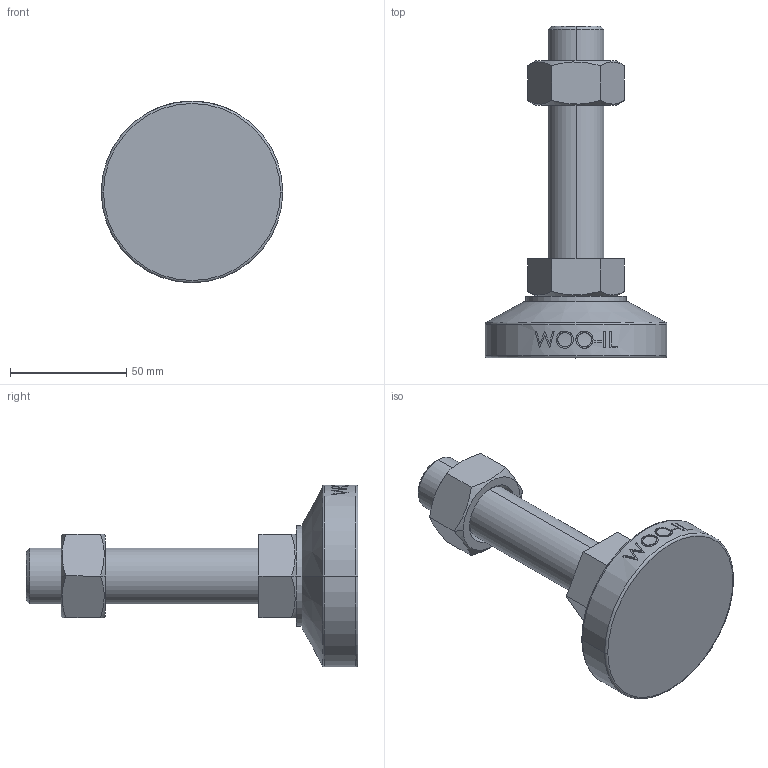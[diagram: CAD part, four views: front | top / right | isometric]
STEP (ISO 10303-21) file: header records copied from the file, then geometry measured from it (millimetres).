
FILE_DESCRIPTION (( 'STEP AP214' ), '1' );
FILE_NAME ('MFB78-M24-100.step', '2022-06-27T08:35:25', ( '' ), ( '' ), 'SwSTEP 2.0', 'SolidWorks 2019', '' );
FILE_SCHEMA (( 'AUTOMOTIVE_DESIGN' ));
Length unit declared in the file: millimetre
Products named in the file (1): MFB78-M24-100
Bounding box: 78 x 142.5 x 78 mm (x, y, z)
Volume: 177942.3 mm3; surface area: 30365 mm2
Topology: 3 solids, 3 shells, 97 faces, 225 edges, 144 vertices
Faces by surface type: plane 47, cylinder 16, bspline 16, cone 14, torus 4
Entity records: 4305 total; most frequent: CARTESIAN_POINT 2175, ORIENTED_EDGE 450, DIRECTION 385, EDGE_CURVE 225, VERTEX_POINT 144, AXIS2_PLACEMENT_3D 144, EDGE_LOOP 109, LINE 97
